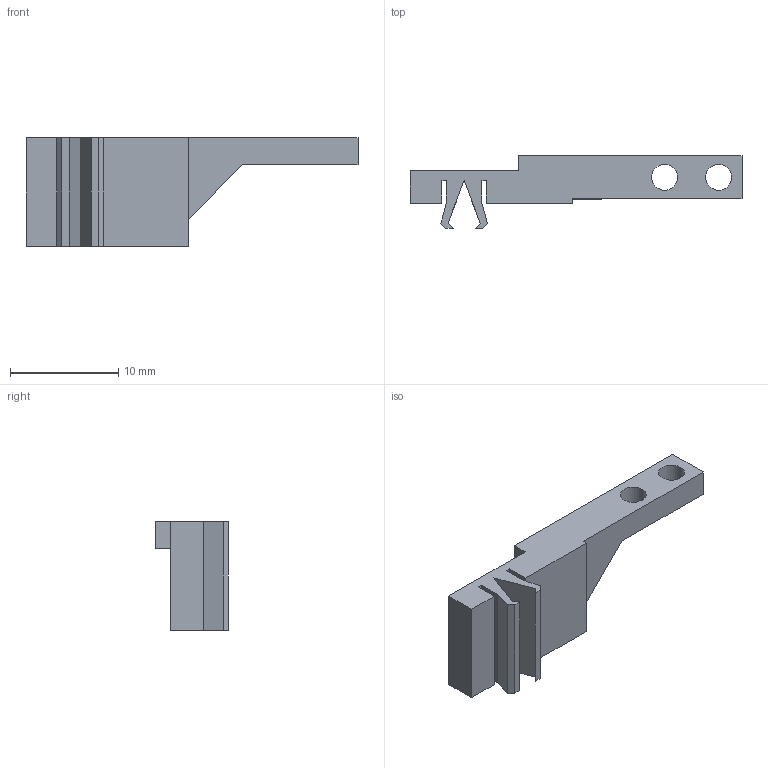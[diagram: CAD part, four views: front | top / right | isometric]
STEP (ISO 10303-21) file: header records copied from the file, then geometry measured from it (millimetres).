
FILE_DESCRIPTION(/* description */ (''),/* implementation_level */ '2;1');
FILE_NAME(/* name */ 'C:/Users/priba/Downloads/mrm-barr2HolderR v2.step',/* time_stamp */ '2022-04-05T08:44:45+02:00',/* author */ (''),/* organization */ (''),/* preprocessor_version */ 'ST-DEVELOPER v18.1',/* originating_system */ 'Autodesk Translation Framework v10.13.0.1454',/* authorisation */ '');
FILE_SCHEMA (('AUTOMOTIVE_DESIGN { 1 0 10303 214 3 1 1 }'));
Length unit declared in the file: millimetre
Products named in the file (1): mrm-barr2HolderR
Bounding box: 30.67 x 6.71 x 10 mm (x, y, z)
Volume: 566.1 mm3; surface area: 985.5 mm2
Topology: 1 solids, 1 shells, 40 faces, 112 edges, 74 vertices
Faces by surface type: plane 38, cylinder 2
Full cylindrical faces by diameter (mm): 2.4 x2
Entity records: 1305 total; most frequent: CARTESIAN_POINT 227, ORIENTED_EDGE 224, DIRECTION 198, EDGE_CURVE 112, LINE 108, VECTOR 108, VERTEX_POINT 74, AXIS2_PLACEMENT_3D 45
